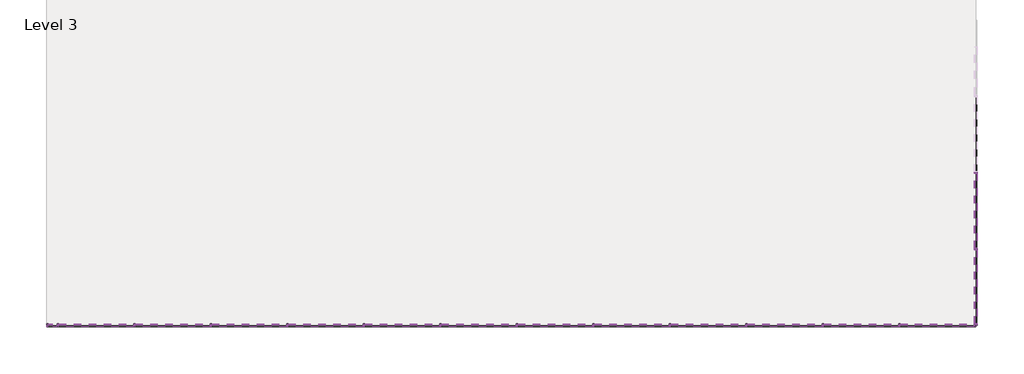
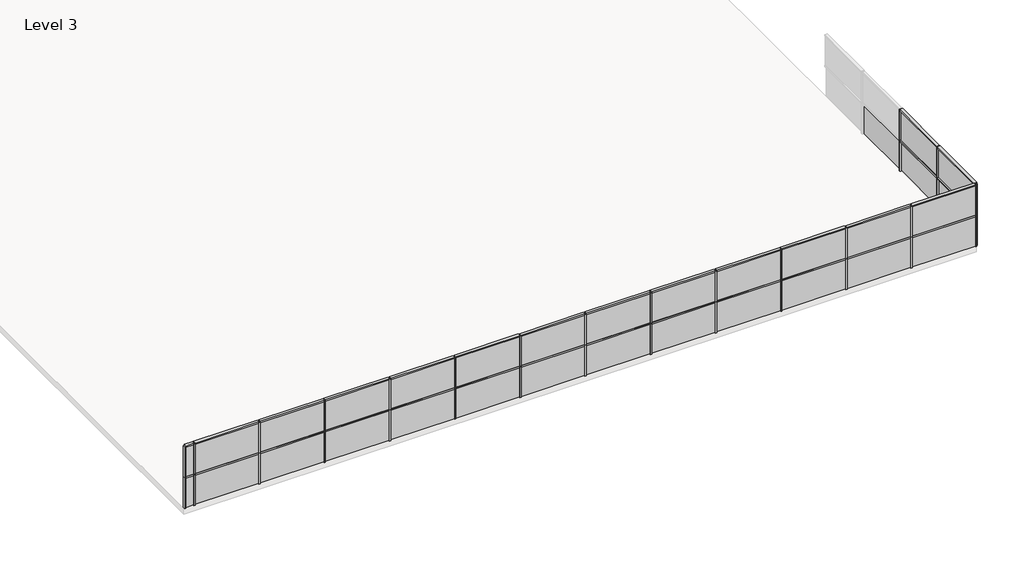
# One storey, part 1 of 2: 64 members, 31 plates.
"""IFC4 building model written with IfcOpenShell, lengths in millimetres."""

from ifc_helpers import new_model, si_unit, origin, place, context, project, spatial, transform, mapped, element, save
from components import member_8cef0660, member_c65d5026, member_82905deb, member_4491d118, member_af2f84b9, system_panel_glazed_88acb840, system_panel_glazed_2a6c68b7, system_panel_glazed_224948cd, system_panel_solid_02c927c3, system_panel_solid_4f3844da, system_panel_solid_93991fe5

model = new_model("IFC4")

# Units and contexts
model_context = context("Model", 3, world=origin())
ifc_project = project(units=[si_unit("LENGTHUNIT", "METRE", prefix="MILLI")], contexts=[model_context])

# Site, building, storey
site = spatial("IfcSite", under=ifc_project)
building = spatial("IfcBuilding", under=site)
storey = spatial("IfcBuildingStorey", under=building, Name="Level 3", Elevation=6096.0)

# Members
placement = place(None, origin())
member_shape = member_8cef0660(model_context)
element("IfcMember", 1, ObjectType="Rectangular Mullion : 2.5\" x 5\" rectangular", at=placement, inside=storey, context=model_context, shape_type="MappedRepresentation", body=[
    mapped(member_shape, transform((-7003.8511466, -36697.3111797, 9144.0), x_axis=(0.0, 0.0, 1.0), y_axis=(1.0, 0.0, 0.0), z_axis=(0.0, 1.0, 0.0))),
])
element("IfcMember", 2, ObjectType="Rectangular Mullion : 2.5\" x 5\" rectangular", at=placement, inside=storey, context=model_context, shape_type="MappedRepresentation", body=[
    mapped(member_shape, transform((-7003.8511466, -36697.3111797, 7620.0), x_axis=(0.0, 0.0, 1.0), y_axis=(1.0, 0.0, 0.0), z_axis=(0.0, 1.0, 0.0))),
])
element("IfcMember", 3, ObjectType="Rectangular Mullion : 2.5\" x 5\" rectangular", at=placement, inside=storey, context=model_context, shape_type="MappedRepresentation", body=[
    mapped(member_shape, transform((-40563.6011466, -42761.5611797, 9144.0), x_axis=(0.0, 0.0, 1.0), y_axis=(0.0, -1.0, 0.0), z_axis=(1.0, 0.0, 0.0))),
])
element("IfcMember", 4, ObjectType="Rectangular Mullion : 2.5\" x 5\" rectangular", at=placement, inside=storey, context=model_context, shape_type="MappedRepresentation", body=[
    mapped(member_shape, transform((-37515.6011466, -42761.5611797, 9144.0), x_axis=(0.0, 0.0, 1.0), y_axis=(0.0, -1.0, 0.0), z_axis=(1.0, 0.0, 0.0))),
])
element("IfcMember", 5, ObjectType="Rectangular Mullion : 2.5\" x 5\" rectangular", at=placement, inside=storey, context=model_context, shape_type="MappedRepresentation", body=[
    mapped(member_shape, transform((-34467.6011466, -42761.5611797, 9144.0), x_axis=(0.0, 0.0, 1.0), y_axis=(0.0, -1.0, 0.0), z_axis=(1.0, 0.0, 0.0))),
])
element("IfcMember", 6, ObjectType="Rectangular Mullion : 2.5\" x 5\" rectangular", at=placement, inside=storey, context=model_context, shape_type="MappedRepresentation", body=[
    mapped(member_shape, transform((-31419.6011466, -42761.5611797, 9144.0), x_axis=(0.0, 0.0, 1.0), y_axis=(0.0, -1.0, 0.0), z_axis=(1.0, 0.0, 0.0))),
])
element("IfcMember", 7, ObjectType="Rectangular Mullion : 2.5\" x 5\" rectangular", at=placement, inside=storey, context=model_context, shape_type="MappedRepresentation", body=[
    mapped(member_shape, transform((-28371.6011466, -42761.5611797, 9144.0), x_axis=(0.0, 0.0, 1.0), y_axis=(0.0, -1.0, 0.0), z_axis=(1.0, 0.0, 0.0))),
])
element("IfcMember", 8, ObjectType="Rectangular Mullion : 2.5\" x 5\" rectangular", at=placement, inside=storey, context=model_context, shape_type="MappedRepresentation", body=[
    mapped(member_shape, transform((-25323.6011466, -42761.5611797, 9144.0), x_axis=(0.0, 0.0, 1.0), y_axis=(0.0, -1.0, 0.0), z_axis=(1.0, 0.0, 0.0))),
])
element("IfcMember", 9, ObjectType="Rectangular Mullion : 2.5\" x 5\" rectangular", at=placement, inside=storey, context=model_context, shape_type="MappedRepresentation", body=[
    mapped(member_shape, transform((-22275.6011466, -42761.5611797, 9144.0), x_axis=(0.0, 0.0, 1.0), y_axis=(0.0, -1.0, 0.0), z_axis=(1.0, 0.0, 0.0))),
])
element("IfcMember", 10, ObjectType="Rectangular Mullion : 2.5\" x 5\" rectangular", at=placement, inside=storey, context=model_context, shape_type="MappedRepresentation", body=[
    mapped(member_shape, transform((-19227.6011466, -42761.5611797, 9144.0), x_axis=(0.0, 0.0, 1.0), y_axis=(0.0, -1.0, 0.0), z_axis=(1.0, 0.0, 0.0))),
])
element("IfcMember", 11, ObjectType="Rectangular Mullion : 2.5\" x 5\" rectangular", at=placement, inside=storey, context=model_context, shape_type="MappedRepresentation", body=[
    mapped(member_shape, transform((-16179.6011466, -42761.5611797, 9144.0), x_axis=(0.0, 0.0, 1.0), y_axis=(0.0, -1.0, 0.0), z_axis=(1.0, 0.0, 0.0))),
])
element("IfcMember", 12, ObjectType="Rectangular Mullion : 2.5\" x 5\" rectangular", at=placement, inside=storey, context=model_context, shape_type="MappedRepresentation", body=[
    mapped(member_shape, transform((-13131.6011466, -42761.5611797, 9144.0), x_axis=(0.0, 0.0, 1.0), y_axis=(0.0, -1.0, 0.0), z_axis=(1.0, 0.0, 0.0))),
])
element("IfcMember", 13, ObjectType="Rectangular Mullion : 2.5\" x 5\" rectangular", at=placement, inside=storey, context=model_context, shape_type="MappedRepresentation", body=[
    mapped(member_shape, transform((-10083.6011466, -42761.5611797, 9144.0), x_axis=(0.0, 0.0, 1.0), y_axis=(0.0, -1.0, 0.0), z_axis=(1.0, 0.0, 0.0))),
])
element("IfcMember", 14, ObjectType="Rectangular Mullion : 2.5\" x 5\" rectangular", at=placement, inside=storey, context=model_context, shape_type="MappedRepresentation", body=[
    mapped(member_shape, transform((-40563.6011466, -42761.5611797, 7620.0), x_axis=(0.0, 0.0, 1.0), y_axis=(0.0, -1.0, 0.0), z_axis=(1.0, 0.0, 0.0))),
])
element("IfcMember", 15, ObjectType="Rectangular Mullion : 2.5\" x 5\" rectangular", at=placement, inside=storey, context=model_context, shape_type="MappedRepresentation", body=[
    mapped(member_shape, transform((-37515.6011466, -42761.5611797, 7620.0), x_axis=(0.0, 0.0, 1.0), y_axis=(0.0, -1.0, 0.0), z_axis=(1.0, 0.0, 0.0))),
])
element("IfcMember", 16, ObjectType="Rectangular Mullion : 2.5\" x 5\" rectangular", at=placement, inside=storey, context=model_context, shape_type="MappedRepresentation", body=[
    mapped(member_shape, transform((-34467.6011466, -42761.5611797, 7620.0), x_axis=(0.0, 0.0, 1.0), y_axis=(0.0, -1.0, 0.0), z_axis=(1.0, 0.0, 0.0))),
])
element("IfcMember", 17, ObjectType="Rectangular Mullion : 2.5\" x 5\" rectangular", at=placement, inside=storey, context=model_context, shape_type="MappedRepresentation", body=[
    mapped(member_shape, transform((-31419.6011466, -42761.5611797, 7620.0), x_axis=(0.0, 0.0, 1.0), y_axis=(0.0, -1.0, 0.0), z_axis=(1.0, 0.0, 0.0))),
])
element("IfcMember", 18, ObjectType="Rectangular Mullion : 2.5\" x 5\" rectangular", at=placement, inside=storey, context=model_context, shape_type="MappedRepresentation", body=[
    mapped(member_shape, transform((-28371.6011466, -42761.5611797, 7620.0), x_axis=(0.0, 0.0, 1.0), y_axis=(0.0, -1.0, 0.0), z_axis=(1.0, 0.0, 0.0))),
])
element("IfcMember", 19, ObjectType="Rectangular Mullion : 2.5\" x 5\" rectangular", at=placement, inside=storey, context=model_context, shape_type="MappedRepresentation", body=[
    mapped(member_shape, transform((-25323.6011466, -42761.5611797, 7620.0), x_axis=(0.0, 0.0, 1.0), y_axis=(0.0, -1.0, 0.0), z_axis=(1.0, 0.0, 0.0))),
])
element("IfcMember", 20, ObjectType="Rectangular Mullion : 2.5\" x 5\" rectangular", at=placement, inside=storey, context=model_context, shape_type="MappedRepresentation", body=[
    mapped(member_shape, transform((-22275.6011466, -42761.5611797, 7620.0), x_axis=(0.0, 0.0, 1.0), y_axis=(0.0, -1.0, 0.0), z_axis=(1.0, 0.0, 0.0))),
])
element("IfcMember", 21, ObjectType="Rectangular Mullion : 2.5\" x 5\" rectangular", at=placement, inside=storey, context=model_context, shape_type="MappedRepresentation", body=[
    mapped(member_shape, transform((-19227.6011466, -42761.5611797, 7620.0), x_axis=(0.0, 0.0, 1.0), y_axis=(0.0, -1.0, 0.0), z_axis=(1.0, 0.0, 0.0))),
])
element("IfcMember", 22, ObjectType="Rectangular Mullion : 2.5\" x 5\" rectangular", at=placement, inside=storey, context=model_context, shape_type="MappedRepresentation", body=[
    mapped(member_shape, transform((-16179.6011466, -42761.5611797, 7620.0), x_axis=(0.0, 0.0, 1.0), y_axis=(0.0, -1.0, 0.0), z_axis=(1.0, 0.0, 0.0))),
])
element("IfcMember", 23, ObjectType="Rectangular Mullion : 2.5\" x 5\" rectangular", at=placement, inside=storey, context=model_context, shape_type="MappedRepresentation", body=[
    mapped(member_shape, transform((-13131.6011466, -42761.5611797, 7620.0), x_axis=(0.0, 0.0, 1.0), y_axis=(0.0, -1.0, 0.0), z_axis=(1.0, 0.0, 0.0))),
])
element("IfcMember", 24, ObjectType="Rectangular Mullion : 2.5\" x 5\" rectangular", at=placement, inside=storey, context=model_context, shape_type="MappedRepresentation", body=[
    mapped(member_shape, transform((-10083.6011466, -42761.5611797, 7620.0), x_axis=(0.0, 0.0, 1.0), y_axis=(0.0, -1.0, 0.0), z_axis=(1.0, 0.0, 0.0))),
])
member_2_shape = member_c65d5026(model_context)
element("IfcMember", 25, ObjectType="Rectangular Mullion : 2.5\" x 5\" rectangular", at=placement, inside=storey, context=model_context, shape_type="MappedRepresentation", body=[
    mapped(member_2_shape, transform((-7003.8511466, -39745.3111797, 9144.0), x_axis=(0.0, 0.0, 1.0), y_axis=(1.0, 0.0, 0.0), z_axis=(0.0, 1.0, 0.0))),
])
element("IfcMember", 26, ObjectType="Rectangular Mullion : 2.5\" x 5\" rectangular", at=placement, inside=storey, context=model_context, shape_type="MappedRepresentation", body=[
    mapped(member_2_shape, transform((-7003.8511466, -39745.3111797, 7620.0), x_axis=(0.0, 0.0, 1.0), y_axis=(1.0, 0.0, 0.0), z_axis=(0.0, 1.0, 0.0))),
])
element("IfcMember", 27, ObjectType="Rectangular Mullion : 2.5\" x 5\" rectangular", at=placement, inside=storey, context=model_context, shape_type="MappedRepresentation", body=[
    mapped(member_2_shape, transform((-7067.3511466, -42761.5611797, 9144.0), x_axis=(0.0, 0.0, 1.0), y_axis=(0.0, -1.0, 0.0), z_axis=(1.0, 0.0, 0.0))),
])
element("IfcMember", 28, ObjectType="Rectangular Mullion : 2.5\" x 5\" rectangular", at=placement, inside=storey, context=model_context, shape_type="MappedRepresentation", body=[
    mapped(member_2_shape, transform((-7067.3511466, -42761.5611797, 7620.0), x_axis=(0.0, 0.0, 1.0), y_axis=(0.0, -1.0, 0.0), z_axis=(1.0, 0.0, 0.0))),
])
member_3_shape = member_82905deb(model_context)
element("IfcMember", 29, ObjectType="Rectangular Mullion : 2.5\" x 5\" rectangular", at=placement, inside=storey, context=model_context, shape_type="MappedRepresentation", body=[
    mapped(member_3_shape, transform((-7003.8511466, -39713.5611797, 9144.0), x_axis=(0.0, -1.0, 0.0), y_axis=(1.0, 0.0, 0.0), z_axis=(0.0, 0.0, 1.0))),
])
element("IfcMember", 30, ObjectType="Rectangular Mullion : 2.5\" x 5\" rectangular", at=placement, inside=storey, context=model_context, shape_type="MappedRepresentation", body=[
    mapped(member_3_shape, transform((-7003.8511466, -39713.5611797, 7620.0), x_axis=(0.0, -1.0, 0.0), y_axis=(1.0, 0.0, 0.0), z_axis=(0.0, 0.0, 1.0))),
])
element("IfcMember", 31, ObjectType="Rectangular Mullion : 2.5\" x 5\" rectangular", at=placement, inside=storey, context=model_context, shape_type="MappedRepresentation", body=[
    mapped(member_3_shape, transform((-7003.8511466, -36665.5611797, 9144.0), x_axis=(0.0, -1.0, 0.0), y_axis=(1.0, 0.0, 0.0), z_axis=(0.0, 0.0, 1.0))),
])
element("IfcMember", 32, ObjectType="Rectangular Mullion : 2.5\" x 5\" rectangular", at=placement, inside=storey, context=model_context, shape_type="MappedRepresentation", body=[
    mapped(member_3_shape, transform((-7003.8511466, -36665.5611797, 7620.0), x_axis=(0.0, -1.0, 0.0), y_axis=(1.0, 0.0, 0.0), z_axis=(0.0, 0.0, 1.0))),
])
element("IfcMember", 33, ObjectType="Rectangular Mullion : 2.5\" x 5\" rectangular", at=placement, inside=storey, context=model_context, shape_type="MappedRepresentation", body=[
    mapped(member_3_shape, transform((-10051.8511466, -42761.5611797, 9144.0), x_axis=(-1.0, 0.0, 0.0), y_axis=(0.0, -1.0, 0.0), z_axis=(0.0, 0.0, 1.0))),
])
element("IfcMember", 34, ObjectType="Rectangular Mullion : 2.5\" x 5\" rectangular", at=placement, inside=storey, context=model_context, shape_type="MappedRepresentation", body=[
    mapped(member_3_shape, transform((-10051.8511466, -42761.5611797, 7620.0), x_axis=(-1.0, 0.0, 0.0), y_axis=(0.0, -1.0, 0.0), z_axis=(0.0, 0.0, 1.0))),
])
element("IfcMember", 35, ObjectType="Rectangular Mullion : 2.5\" x 5\" rectangular", at=placement, inside=storey, context=model_context, shape_type="MappedRepresentation", body=[
    mapped(member_3_shape, transform((-31387.8511466, -42761.5611797, 9144.0), x_axis=(-1.0, 0.0, 0.0), y_axis=(0.0, -1.0, 0.0), z_axis=(0.0, 0.0, 1.0))),
])
element("IfcMember", 36, ObjectType="Rectangular Mullion : 2.5\" x 5\" rectangular", at=placement, inside=storey, context=model_context, shape_type="MappedRepresentation", body=[
    mapped(member_3_shape, transform((-31387.8511466, -42761.5611797, 7620.0), x_axis=(-1.0, 0.0, 0.0), y_axis=(0.0, -1.0, 0.0), z_axis=(0.0, 0.0, 1.0))),
])
element("IfcMember", 37, ObjectType="Rectangular Mullion : 2.5\" x 5\" rectangular", at=placement, inside=storey, context=model_context, shape_type="MappedRepresentation", body=[
    mapped(member_3_shape, transform((-28339.8511466, -42761.5611797, 9144.0), x_axis=(-1.0, 0.0, 0.0), y_axis=(0.0, -1.0, 0.0), z_axis=(0.0, 0.0, 1.0))),
])
element("IfcMember", 38, ObjectType="Rectangular Mullion : 2.5\" x 5\" rectangular", at=placement, inside=storey, context=model_context, shape_type="MappedRepresentation", body=[
    mapped(member_3_shape, transform((-28339.8511466, -42761.5611797, 7620.0), x_axis=(-1.0, 0.0, 0.0), y_axis=(0.0, -1.0, 0.0), z_axis=(0.0, 0.0, 1.0))),
])
element("IfcMember", 39, ObjectType="Rectangular Mullion : 2.5\" x 5\" rectangular", at=placement, inside=storey, context=model_context, shape_type="MappedRepresentation", body=[
    mapped(member_3_shape, transform((-25291.8511466, -42761.5611797, 9144.0), x_axis=(-1.0, 0.0, 0.0), y_axis=(0.0, -1.0, 0.0), z_axis=(0.0, 0.0, 1.0))),
])
element("IfcMember", 40, ObjectType="Rectangular Mullion : 2.5\" x 5\" rectangular", at=placement, inside=storey, context=model_context, shape_type="MappedRepresentation", body=[
    mapped(member_3_shape, transform((-25291.8511466, -42761.5611797, 7620.0), x_axis=(-1.0, 0.0, 0.0), y_axis=(0.0, -1.0, 0.0), z_axis=(0.0, 0.0, 1.0))),
])
element("IfcMember", 41, ObjectType="Rectangular Mullion : 2.5\" x 5\" rectangular", at=placement, inside=storey, context=model_context, shape_type="MappedRepresentation", body=[
    mapped(member_3_shape, transform((-22243.8511466, -42761.5611797, 9144.0), x_axis=(-1.0, 0.0, 0.0), y_axis=(0.0, -1.0, 0.0), z_axis=(0.0, 0.0, 1.0))),
])
element("IfcMember", 42, ObjectType="Rectangular Mullion : 2.5\" x 5\" rectangular", at=placement, inside=storey, context=model_context, shape_type="MappedRepresentation", body=[
    mapped(member_3_shape, transform((-22243.8511466, -42761.5611797, 7620.0), x_axis=(-1.0, 0.0, 0.0), y_axis=(0.0, -1.0, 0.0), z_axis=(0.0, 0.0, 1.0))),
])
element("IfcMember", 43, ObjectType="Rectangular Mullion : 2.5\" x 5\" rectangular", at=placement, inside=storey, context=model_context, shape_type="MappedRepresentation", body=[
    mapped(member_3_shape, transform((-19195.8511466, -42761.5611797, 9144.0), x_axis=(-1.0, 0.0, 0.0), y_axis=(0.0, -1.0, 0.0), z_axis=(0.0, 0.0, 1.0))),
])
element("IfcMember", 44, ObjectType="Rectangular Mullion : 2.5\" x 5\" rectangular", at=placement, inside=storey, context=model_context, shape_type="MappedRepresentation", body=[
    mapped(member_3_shape, transform((-19195.8511466, -42761.5611797, 7620.0), x_axis=(-1.0, 0.0, 0.0), y_axis=(0.0, -1.0, 0.0), z_axis=(0.0, 0.0, 1.0))),
])
element("IfcMember", 45, ObjectType="Rectangular Mullion : 2.5\" x 5\" rectangular", at=placement, inside=storey, context=model_context, shape_type="MappedRepresentation", body=[
    mapped(member_3_shape, transform((-16147.8511466, -42761.5611797, 9144.0), x_axis=(-1.0, 0.0, 0.0), y_axis=(0.0, -1.0, 0.0), z_axis=(0.0, 0.0, 1.0))),
])
element("IfcMember", 46, ObjectType="Rectangular Mullion : 2.5\" x 5\" rectangular", at=placement, inside=storey, context=model_context, shape_type="MappedRepresentation", body=[
    mapped(member_3_shape, transform((-16147.8511466, -42761.5611797, 7620.0), x_axis=(-1.0, 0.0, 0.0), y_axis=(0.0, -1.0, 0.0), z_axis=(0.0, 0.0, 1.0))),
])
element("IfcMember", 47, ObjectType="Rectangular Mullion : 2.5\" x 5\" rectangular", at=placement, inside=storey, context=model_context, shape_type="MappedRepresentation", body=[
    mapped(member_3_shape, transform((-13099.8511466, -42761.5611797, 9144.0), x_axis=(-1.0, 0.0, 0.0), y_axis=(0.0, -1.0, 0.0), z_axis=(0.0, 0.0, 1.0))),
])
element("IfcMember", 48, ObjectType="Rectangular Mullion : 2.5\" x 5\" rectangular", at=placement, inside=storey, context=model_context, shape_type="MappedRepresentation", body=[
    mapped(member_3_shape, transform((-13099.8511466, -42761.5611797, 7620.0), x_axis=(-1.0, 0.0, 0.0), y_axis=(0.0, -1.0, 0.0), z_axis=(0.0, 0.0, 1.0))),
])
element("IfcMember", 49, ObjectType="Rectangular Mullion : 2.5\" x 5\" rectangular", at=placement, inside=storey, context=model_context, shape_type="MappedRepresentation", body=[
    mapped(member_3_shape, transform((-43579.8511466, -42761.5611797, 9144.0), x_axis=(-1.0, 0.0, 0.0), y_axis=(0.0, -1.0, 0.0), z_axis=(0.0, 0.0, 1.0))),
])
element("IfcMember", 50, ObjectType="Rectangular Mullion : 2.5\" x 5\" rectangular", at=placement, inside=storey, context=model_context, shape_type="MappedRepresentation", body=[
    mapped(member_3_shape, transform((-43579.8511466, -42761.5611797, 7620.0), x_axis=(-1.0, 0.0, 0.0), y_axis=(0.0, -1.0, 0.0), z_axis=(0.0, 0.0, 1.0))),
])
element("IfcMember", 51, ObjectType="Rectangular Mullion : 2.5\" x 5\" rectangular", at=placement, inside=storey, context=model_context, shape_type="MappedRepresentation", body=[
    mapped(member_3_shape, transform((-40531.8511466, -42761.5611797, 9144.0), x_axis=(-1.0, 0.0, 0.0), y_axis=(0.0, -1.0, 0.0), z_axis=(0.0, 0.0, 1.0))),
])
element("IfcMember", 52, ObjectType="Rectangular Mullion : 2.5\" x 5\" rectangular", at=placement, inside=storey, context=model_context, shape_type="MappedRepresentation", body=[
    mapped(member_3_shape, transform((-40531.8511466, -42761.5611797, 7620.0), x_axis=(-1.0, 0.0, 0.0), y_axis=(0.0, -1.0, 0.0), z_axis=(0.0, 0.0, 1.0))),
])
element("IfcMember", 53, ObjectType="Rectangular Mullion : 2.5\" x 5\" rectangular", at=placement, inside=storey, context=model_context, shape_type="MappedRepresentation", body=[
    mapped(member_3_shape, transform((-37483.8511466, -42761.5611797, 9144.0), x_axis=(-1.0, 0.0, 0.0), y_axis=(0.0, -1.0, 0.0), z_axis=(0.0, 0.0, 1.0))),
])
element("IfcMember", 54, ObjectType="Rectangular Mullion : 2.5\" x 5\" rectangular", at=placement, inside=storey, context=model_context, shape_type="MappedRepresentation", body=[
    mapped(member_3_shape, transform((-37483.8511466, -42761.5611797, 7620.0), x_axis=(-1.0, 0.0, 0.0), y_axis=(0.0, -1.0, 0.0), z_axis=(0.0, 0.0, 1.0))),
])
element("IfcMember", 55, ObjectType="Rectangular Mullion : 2.5\" x 5\" rectangular", at=placement, inside=storey, context=model_context, shape_type="MappedRepresentation", body=[
    mapped(member_3_shape, transform((-34435.8511466, -42761.5611797, 9144.0), x_axis=(-1.0, 0.0, 0.0), y_axis=(0.0, -1.0, 0.0), z_axis=(0.0, 0.0, 1.0))),
])
element("IfcMember", 56, ObjectType="Rectangular Mullion : 2.5\" x 5\" rectangular", at=placement, inside=storey, context=model_context, shape_type="MappedRepresentation", body=[
    mapped(member_3_shape, transform((-34435.8511466, -42761.5611797, 7620.0), x_axis=(-1.0, 0.0, 0.0), y_axis=(0.0, -1.0, 0.0), z_axis=(0.0, 0.0, 1.0))),
])
member_4_shape = member_4491d118(model_context)
element("IfcMember", 57, ObjectType="Rectangular Mullion : 2.5\" x 5\" rectangular", at=placement, inside=storey, context=model_context, shape_type="MappedRepresentation", body=[
    mapped(member_4_shape, transform((-7003.8511466, -42761.5611797, 7620.0), x_axis=(1.0, 0.0, 0.0), y_axis=(0.0, -1.0, 0.0), z_axis=(0.0, 0.0, -1.0))),
])
element("IfcMember", 58, ObjectType="Rectangular Mullion : 2.5\" x 5\" rectangular", at=placement, inside=storey, context=model_context, shape_type="MappedRepresentation", body=[
    mapped(member_4_shape, transform((-7003.8511466, -42761.5611797, 6096.0), x_axis=(1.0, 0.0, 0.0), y_axis=(0.0, -1.0, 0.0), z_axis=(0.0, 0.0, -1.0))),
])
element("IfcMember", 59, ObjectType="Rectangular Mullion : 2.5\" x 5\" rectangular", at=placement, inside=storey, context=model_context, shape_type="MappedRepresentation", body=[
    mapped(member_4_shape, transform((-7003.8511466, -42761.5611797, 9144.0), x_axis=(0.0, -1.0, 0.0), y_axis=(1.0, 0.0, 0.0), z_axis=(0.0, 0.0, 1.0))),
])
element("IfcMember", 60, ObjectType="Rectangular Mullion : 2.5\" x 5\" rectangular", at=placement, inside=storey, context=model_context, shape_type="MappedRepresentation", body=[
    mapped(member_4_shape, transform((-7003.8511466, -42761.5611797, 7620.0), x_axis=(0.0, -1.0, 0.0), y_axis=(1.0, 0.0, 0.0), z_axis=(0.0, 0.0, 1.0))),
])
element("IfcMember", 61, ObjectType="Rectangular Mullion : 2.5\" x 5\" rectangular", at=placement, inside=storey, context=model_context, shape_type="MappedRepresentation", body=[
    mapped(member_4_shape, transform((-44037.0511466, -42761.5611797, 9144.0), x_axis=(-1.0, 0.0, 0.0), y_axis=(0.0, -1.0, 0.0), z_axis=(0.0, 0.0, 1.0))),
])
element("IfcMember", 62, ObjectType="Rectangular Mullion : 2.5\" x 5\" rectangular", at=placement, inside=storey, context=model_context, shape_type="MappedRepresentation", body=[
    mapped(member_4_shape, transform((-44037.0511466, -42761.5611797, 7620.0), x_axis=(-1.0, 0.0, 0.0), y_axis=(0.0, -1.0, 0.0), z_axis=(0.0, 0.0, 1.0))),
])
member_5_shape = member_af2f84b9(model_context)
element("IfcMember", 63, ObjectType="Rectangular Mullion : 2.5\" x 5\" rectangular", at=placement, inside=storey, context=model_context, shape_type="MappedRepresentation", body=[
    mapped(member_5_shape, transform((-43611.6011466, -42761.5611797, 9144.0), x_axis=(0.0, 0.0, 1.0), y_axis=(0.0, -1.0, 0.0), z_axis=(1.0, 0.0, 0.0))),
])
element("IfcMember", 64, ObjectType="Rectangular Mullion : 2.5\" x 5\" rectangular", at=placement, inside=storey, context=model_context, shape_type="MappedRepresentation", body=[
    mapped(member_5_shape, transform((-43611.6011466, -42761.5611797, 7620.0), x_axis=(0.0, 0.0, 1.0), y_axis=(0.0, -1.0, 0.0), z_axis=(1.0, 0.0, 0.0))),
])

# Plates
system_panel_glazed_shape = system_panel_glazed_88acb840(model_context)
element("IfcPlate", 65, ObjectType="System Panel : Glazed", at=placement, inside=storey, context=model_context, shape_type="MappedRepresentation", body=[
    mapped(system_panel_glazed_shape, transform((-7003.8511466, -41221.6861797, 6127.75), x_axis=(0.0, -1.0, 0.0), y_axis=(1.0, 0.0, 0.0), z_axis=(0.0, 0.0, 1.0))),
])
element("IfcPlate", 66, ObjectType="System Panel : Glazed", at=placement, inside=storey, context=model_context, shape_type="MappedRepresentation", body=[
    mapped(system_panel_glazed_shape, transform((-8543.7261466, -42761.5611797, 6127.75), x_axis=(-1.0, 0.0, 0.0), y_axis=(0.0, -1.0, 0.0), z_axis=(0.0, 0.0, 1.0))),
])
system_panel_glazed_2_shape = system_panel_glazed_2a6c68b7(model_context)
element("IfcPlate", 67, ObjectType="System Panel : Glazed", at=placement, inside=storey, context=model_context, shape_type="MappedRepresentation", body=[
    mapped(system_panel_glazed_2_shape, transform((-7003.8511466, -35141.5611797, 6127.75), x_axis=(0.0, -1.0, 0.0), y_axis=(1.0, 0.0, 0.0), z_axis=(0.0, 0.0, 1.0))),
])
element("IfcPlate", 68, ObjectType="System Panel : Glazed", at=placement, inside=storey, context=model_context, shape_type="MappedRepresentation", body=[
    mapped(system_panel_glazed_2_shape, transform((-7003.8511466, -38189.5611797, 6127.75), x_axis=(0.0, -1.0, 0.0), y_axis=(1.0, 0.0, 0.0), z_axis=(0.0, 0.0, 1.0))),
])
element("IfcPlate", 69, ObjectType="System Panel : Glazed", at=placement, inside=storey, context=model_context, shape_type="MappedRepresentation", body=[
    mapped(system_panel_glazed_2_shape, transform((-11575.8511466, -42761.5611797, 6127.75), x_axis=(-1.0, 0.0, 0.0), y_axis=(0.0, -1.0, 0.0), z_axis=(0.0, 0.0, 1.0))),
])
element("IfcPlate", 70, ObjectType="System Panel : Glazed", at=placement, inside=storey, context=model_context, shape_type="MappedRepresentation", body=[
    mapped(system_panel_glazed_2_shape, transform((-14623.8511466, -42761.5611797, 6127.75), x_axis=(-1.0, 0.0, 0.0), y_axis=(0.0, -1.0, 0.0), z_axis=(0.0, 0.0, 1.0))),
])
element("IfcPlate", 71, ObjectType="System Panel : Glazed", at=placement, inside=storey, context=model_context, shape_type="MappedRepresentation", body=[
    mapped(system_panel_glazed_2_shape, transform((-17671.8511466, -42761.5611797, 6127.75), x_axis=(-1.0, 0.0, 0.0), y_axis=(0.0, -1.0, 0.0), z_axis=(0.0, 0.0, 1.0))),
])
element("IfcPlate", 72, ObjectType="System Panel : Glazed", at=placement, inside=storey, context=model_context, shape_type="MappedRepresentation", body=[
    mapped(system_panel_glazed_2_shape, transform((-20719.8511466, -42761.5611797, 6127.75), x_axis=(-1.0, 0.0, 0.0), y_axis=(0.0, -1.0, 0.0), z_axis=(0.0, 0.0, 1.0))),
])
element("IfcPlate", 73, ObjectType="System Panel : Glazed", at=placement, inside=storey, context=model_context, shape_type="MappedRepresentation", body=[
    mapped(system_panel_glazed_2_shape, transform((-23767.8511466, -42761.5611797, 6127.75), x_axis=(-1.0, 0.0, 0.0), y_axis=(0.0, -1.0, 0.0), z_axis=(0.0, 0.0, 1.0))),
])
element("IfcPlate", 74, ObjectType="System Panel : Glazed", at=placement, inside=storey, context=model_context, shape_type="MappedRepresentation", body=[
    mapped(system_panel_glazed_2_shape, transform((-26815.8511466, -42761.5611797, 6127.75), x_axis=(-1.0, 0.0, 0.0), y_axis=(0.0, -1.0, 0.0), z_axis=(0.0, 0.0, 1.0))),
])
element("IfcPlate", 75, ObjectType="System Panel : Glazed", at=placement, inside=storey, context=model_context, shape_type="MappedRepresentation", body=[
    mapped(system_panel_glazed_2_shape, transform((-29863.8511466, -42761.5611797, 6127.75), x_axis=(-1.0, 0.0, 0.0), y_axis=(0.0, -1.0, 0.0), z_axis=(0.0, 0.0, 1.0))),
])
element("IfcPlate", 76, ObjectType="System Panel : Glazed", at=placement, inside=storey, context=model_context, shape_type="MappedRepresentation", body=[
    mapped(system_panel_glazed_2_shape, transform((-32911.8511466, -42761.5611797, 6127.75), x_axis=(-1.0, 0.0, 0.0), y_axis=(0.0, -1.0, 0.0), z_axis=(0.0, 0.0, 1.0))),
])
element("IfcPlate", 77, ObjectType="System Panel : Glazed", at=placement, inside=storey, context=model_context, shape_type="MappedRepresentation", body=[
    mapped(system_panel_glazed_2_shape, transform((-35959.8511466, -42761.5611797, 6127.75), x_axis=(-1.0, 0.0, 0.0), y_axis=(0.0, -1.0, 0.0), z_axis=(0.0, 0.0, 1.0))),
])
element("IfcPlate", 78, ObjectType="System Panel : Glazed", at=placement, inside=storey, context=model_context, shape_type="MappedRepresentation", body=[
    mapped(system_panel_glazed_2_shape, transform((-39007.8511466, -42761.5611797, 6127.75), x_axis=(-1.0, 0.0, 0.0), y_axis=(0.0, -1.0, 0.0), z_axis=(0.0, 0.0, 1.0))),
])
element("IfcPlate", 79, ObjectType="System Panel : Glazed", at=placement, inside=storey, context=model_context, shape_type="MappedRepresentation", body=[
    mapped(system_panel_glazed_2_shape, transform((-42055.8511466, -42761.5611797, 6127.75), x_axis=(-1.0, 0.0, 0.0), y_axis=(0.0, -1.0, 0.0), z_axis=(0.0, 0.0, 1.0))),
])
system_panel_glazed_3_shape = system_panel_glazed_224948cd(model_context)
element("IfcPlate", 80, ObjectType="System Panel : Glazed", at=placement, inside=storey, context=model_context, shape_type="MappedRepresentation", body=[
    mapped(system_panel_glazed_3_shape, transform((-43792.5761466, -42761.5611797, 6127.75), x_axis=(-1.0, 0.0, 0.0), y_axis=(0.0, -1.0, 0.0), z_axis=(0.0, 0.0, 1.0))),
])
system_panel_solid_shape = system_panel_solid_02c927c3(model_context)
element("IfcPlate", 81, ObjectType="System Panel : Solid", at=placement, inside=storey, context=model_context, shape_type="MappedRepresentation", body=[
    mapped(system_panel_solid_shape, transform((-7003.8511466, -41221.6861797, 7651.75), x_axis=(0.0, -1.0, 0.0), y_axis=(1.0, 0.0, 0.0), z_axis=(0.0, 0.0, 1.0))),
])
element("IfcPlate", 82, ObjectType="System Panel : Solid", at=placement, inside=storey, context=model_context, shape_type="MappedRepresentation", body=[
    mapped(system_panel_solid_shape, transform((-8543.7261466, -42761.5611797, 7651.75), x_axis=(-1.0, 0.0, 0.0), y_axis=(0.0, -1.0, 0.0), z_axis=(0.0, 0.0, 1.0))),
])
system_panel_solid_2_shape = system_panel_solid_4f3844da(model_context)
element("IfcPlate", 83, ObjectType="System Panel : Solid", at=placement, inside=storey, context=model_context, shape_type="MappedRepresentation", body=[
    mapped(system_panel_solid_2_shape, transform((-7003.8511466, -38189.5611797, 7651.75), x_axis=(0.0, -1.0, 0.0), y_axis=(1.0, 0.0, 0.0), z_axis=(0.0, 0.0, 1.0))),
])
element("IfcPlate", 84, ObjectType="System Panel : Solid", at=placement, inside=storey, context=model_context, shape_type="MappedRepresentation", body=[
    mapped(system_panel_solid_2_shape, transform((-11575.8511466, -42761.5611797, 7651.75), x_axis=(-1.0, 0.0, 0.0), y_axis=(0.0, -1.0, 0.0), z_axis=(0.0, 0.0, 1.0))),
])
element("IfcPlate", 85, ObjectType="System Panel : Solid", at=placement, inside=storey, context=model_context, shape_type="MappedRepresentation", body=[
    mapped(system_panel_solid_2_shape, transform((-14623.8511466, -42761.5611797, 7651.75), x_axis=(-1.0, 0.0, 0.0), y_axis=(0.0, -1.0, 0.0), z_axis=(0.0, 0.0, 1.0))),
])
element("IfcPlate", 86, ObjectType="System Panel : Solid", at=placement, inside=storey, context=model_context, shape_type="MappedRepresentation", body=[
    mapped(system_panel_solid_2_shape, transform((-17671.8511466, -42761.5611797, 7651.75), x_axis=(-1.0, 0.0, 0.0), y_axis=(0.0, -1.0, 0.0), z_axis=(0.0, 0.0, 1.0))),
])
element("IfcPlate", 87, ObjectType="System Panel : Solid", at=placement, inside=storey, context=model_context, shape_type="MappedRepresentation", body=[
    mapped(system_panel_solid_2_shape, transform((-20719.8511466, -42761.5611797, 7651.75), x_axis=(-1.0, 0.0, 0.0), y_axis=(0.0, -1.0, 0.0), z_axis=(0.0, 0.0, 1.0))),
])
element("IfcPlate", 88, ObjectType="System Panel : Solid", at=placement, inside=storey, context=model_context, shape_type="MappedRepresentation", body=[
    mapped(system_panel_solid_2_shape, transform((-23767.8511466, -42761.5611797, 7651.75), x_axis=(-1.0, 0.0, 0.0), y_axis=(0.0, -1.0, 0.0), z_axis=(0.0, 0.0, 1.0))),
])
element("IfcPlate", 89, ObjectType="System Panel : Solid", at=placement, inside=storey, context=model_context, shape_type="MappedRepresentation", body=[
    mapped(system_panel_solid_2_shape, transform((-26815.8511466, -42761.5611797, 7651.75), x_axis=(-1.0, 0.0, 0.0), y_axis=(0.0, -1.0, 0.0), z_axis=(0.0, 0.0, 1.0))),
])
element("IfcPlate", 90, ObjectType="System Panel : Solid", at=placement, inside=storey, context=model_context, shape_type="MappedRepresentation", body=[
    mapped(system_panel_solid_2_shape, transform((-29863.8511466, -42761.5611797, 7651.75), x_axis=(-1.0, 0.0, 0.0), y_axis=(0.0, -1.0, 0.0), z_axis=(0.0, 0.0, 1.0))),
])
element("IfcPlate", 91, ObjectType="System Panel : Solid", at=placement, inside=storey, context=model_context, shape_type="MappedRepresentation", body=[
    mapped(system_panel_solid_2_shape, transform((-32911.8511466, -42761.5611797, 7651.75), x_axis=(-1.0, 0.0, 0.0), y_axis=(0.0, -1.0, 0.0), z_axis=(0.0, 0.0, 1.0))),
])
element("IfcPlate", 92, ObjectType="System Panel : Solid", at=placement, inside=storey, context=model_context, shape_type="MappedRepresentation", body=[
    mapped(system_panel_solid_2_shape, transform((-35959.8511466, -42761.5611797, 7651.75), x_axis=(-1.0, 0.0, 0.0), y_axis=(0.0, -1.0, 0.0), z_axis=(0.0, 0.0, 1.0))),
])
element("IfcPlate", 93, ObjectType="System Panel : Solid", at=placement, inside=storey, context=model_context, shape_type="MappedRepresentation", body=[
    mapped(system_panel_solid_2_shape, transform((-39007.8511466, -42761.5611797, 7651.75), x_axis=(-1.0, 0.0, 0.0), y_axis=(0.0, -1.0, 0.0), z_axis=(0.0, 0.0, 1.0))),
])
element("IfcPlate", 94, ObjectType="System Panel : Solid", at=placement, inside=storey, context=model_context, shape_type="MappedRepresentation", body=[
    mapped(system_panel_solid_2_shape, transform((-42055.8511466, -42761.5611797, 7651.75), x_axis=(-1.0, 0.0, 0.0), y_axis=(0.0, -1.0, 0.0), z_axis=(0.0, 0.0, 1.0))),
])
system_panel_solid_3_shape = system_panel_solid_93991fe5(model_context)
element("IfcPlate", 95, ObjectType="System Panel : Solid", at=placement, inside=storey, context=model_context, shape_type="MappedRepresentation", body=[
    mapped(system_panel_solid_3_shape, transform((-43792.5761466, -42761.5611797, 7651.75), x_axis=(-1.0, 0.0, 0.0), y_axis=(0.0, -1.0, 0.0), z_axis=(0.0, 0.0, 1.0))),
])

save(model, "model.ifc")
